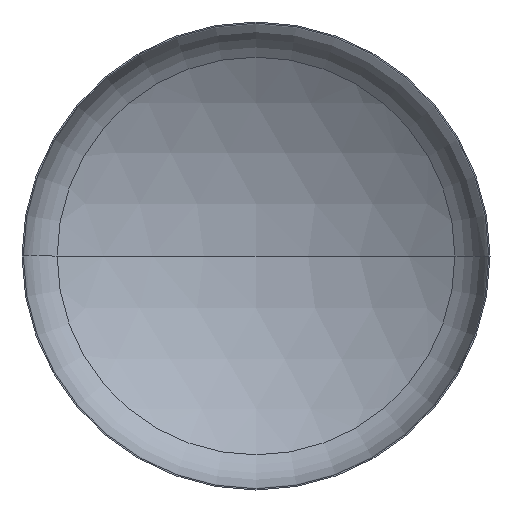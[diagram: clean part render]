
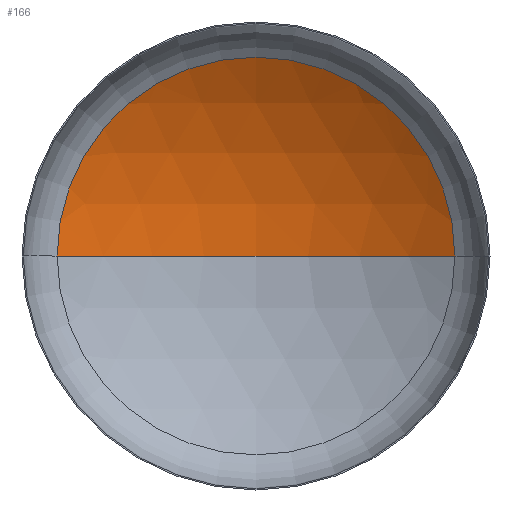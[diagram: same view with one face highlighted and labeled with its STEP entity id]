
A CAD part, front view. The second image highlights one B-rep face of the part: STEP entity #166.
In plain terms, the highlighted spherical face has radius 2720 mm.
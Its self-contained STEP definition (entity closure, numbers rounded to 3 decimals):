
#11 = AXIS2_PLACEMENT_3D ( 'NONE', #244, #404, #267 ) ;
#21 = AXIS2_PLACEMENT_3D ( 'NONE', #242, #367, #156 ) ;
#26 = EDGE_LOOP ( 'NONE', ( #162, #82, #73 ) ) ;
#36 = DIRECTION ( 'NONE',  ( 1., 0., 0. ) ) ;
#40 = VERTEX_POINT ( 'NONE', #257 ) ;
#53 = VERTEX_POINT ( 'NONE', #271 ) ;
#57 = AXIS2_PLACEMENT_3D ( 'NONE', #228, #192, #240 ) ;
#73 = ORIENTED_EDGE ( 'NONE', *, *, #337, .T. ) ;
#82 = ORIENTED_EDGE ( 'NONE', *, *, #385, .T. ) ;
#119 = CIRCLE ( 'NONE', #11, 2720. ) ;
#124 = AXIS2_PLACEMENT_3D ( 'NONE', #152, #339, #36 ) ;
#146 = VERTEX_POINT ( 'NONE', #300 ) ;
#152 = CARTESIAN_POINT ( 'NONE',  ( 0., -1829.696, 0. ) ) ;
#156 = DIRECTION ( 'NONE',  ( 1., 0., 0. ) ) ;
#162 = ORIENTED_EDGE ( 'NONE', *, *, #384, .F. ) ;
#166 = ADVANCED_FACE ( 'NONE', ( #194 ), #266, .F. ) ;
#192 = DIRECTION ( 'NONE',  ( 0., 0., -1. ) ) ;
#194 = FACE_OUTER_BOUND ( 'NONE', #26, .T. ) ;
#228 = CARTESIAN_POINT ( 'NONE',  ( 0., -1829.696, 0. ) ) ;
#240 = DIRECTION ( 'NONE',  ( -1., 0., 0. ) ) ;
#242 = CARTESIAN_POINT ( 'NONE',  ( 0., 474.802, 0. ) ) ;
#244 = CARTESIAN_POINT ( 'NONE',  ( 0., -1829.696, 0. ) ) ;
#257 = CARTESIAN_POINT ( 'NONE',  ( 0., 890.304, 0. ) ) ;
#266 = SPHERICAL_SURFACE ( 'NONE', #57, 2720. ) ;
#267 = DIRECTION ( 'NONE',  ( -1., 0., 0. ) ) ;
#271 = CARTESIAN_POINT ( 'NONE',  ( 1444.884, 474.802, 0. ) ) ;
#292 = CIRCLE ( 'NONE', #21, 1444.884 ) ;
#300 = CARTESIAN_POINT ( 'NONE',  ( -1444.884, 474.802, 0. ) ) ;
#337 = EDGE_CURVE ( 'NONE', #53, #146, #292, .T. ) ;
#339 = DIRECTION ( 'NONE',  ( 0., 0., 1. ) ) ;
#340 = CIRCLE ( 'NONE', #124, 2720. ) ;
#367 = DIRECTION ( 'NONE',  ( 0., -1., 0. ) ) ;
#384 = EDGE_CURVE ( 'NONE', #40, #146, #340, .T. ) ;
#385 = EDGE_CURVE ( 'NONE', #40, #53, #119, .T. ) ;
#404 = DIRECTION ( 'NONE',  ( 0., 0., -1. ) ) ;
